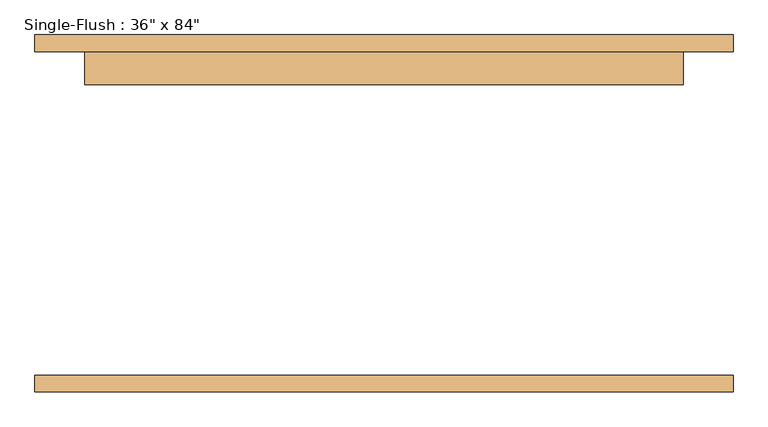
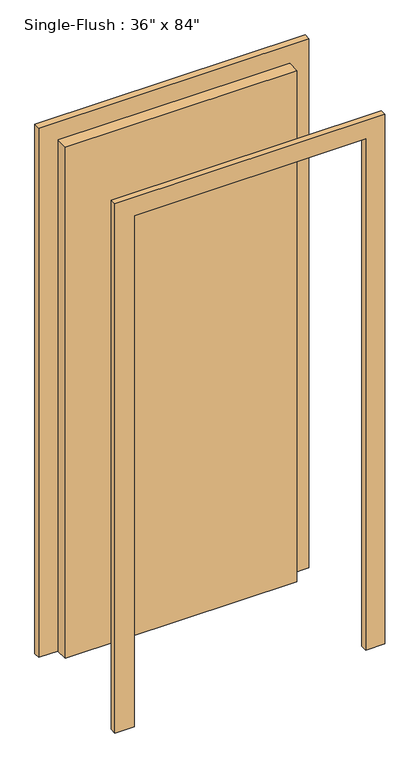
"""IFC4 building model written with IfcOpenShell, lengths in millimetres: door geometry."""

from ifc_helpers import new_model, si_unit, frame, origin, origin_with_axes, place, context, project, spatial, polyline, outline, extrude, source, transform, mapped, element, save


def door_88aed75c(model_context):
    return source(origin(), model_context, "Body", "SweptSolid", [
        extrude(outline(polyline([(2209.8, -533.4), (0.0, -533.4), (0.0, -457.2), (2133.6, -457.2), (2133.6, 457.2), (0.0, 457.2), (0.0, 533.4), (2209.8, 533.4), (2209.8, -533.4)])), frame((0.0, 247.65, 0.0), z_axis=(0.0, 1.0, 0.0), x_axis=(0.0, 0.0, 1.0)), (0.0, 0.0, 1.0), 25.4),
        extrude(outline(polyline([(2209.8, 533.4), (2209.8, -533.4), (0.0, -533.4), (0.0, -457.2), (2133.6, -457.2), (2133.6, 457.2), (0.0, 457.2), (0.0, 533.4), (2209.8, 533.4)])), frame((0.0, -273.05, 0.0), z_axis=(0.0, 1.0, 0.0), x_axis=(0.0, 0.0, 1.0)), (0.0, 0.0, 1.0), 25.4),
        extrude(outline(polyline([(457.2, 196.85), (-457.2, 196.85), (-457.2, 247.65), (457.2, 247.65), (457.2, 196.85)])), origin_with_axes(), (0.0, 0.0, 1.0), 2133.6),
    ])


if __name__ == "__main__":
    model = new_model("IFC4")
    model_context = context("Model", 3, world=origin())
    ifc_project = project(units=[si_unit("LENGTHUNIT", "METRE", prefix="MILLI")], contexts=[model_context])
    site = spatial("IfcSite", under=ifc_project)
    building = spatial("IfcBuilding", under=site)
    placement = place(None, origin())
    door_shape = door_88aed75c(model_context)
    element("IfcDoor", 1, ObjectType="Single-Flush : 36\" x 84\"", at=placement, inside=building, context=model_context, shape_type="MappedRepresentation", body=[
        mapped(door_shape, transform((0.0, 0.0, 0.0), x_axis=(1.0, 0.0, 0.0), y_axis=(0.0, 1.0, 0.0), z_axis=(0.0, 0.0, 1.0))),
    ])
    save(model, "model.ifc")
